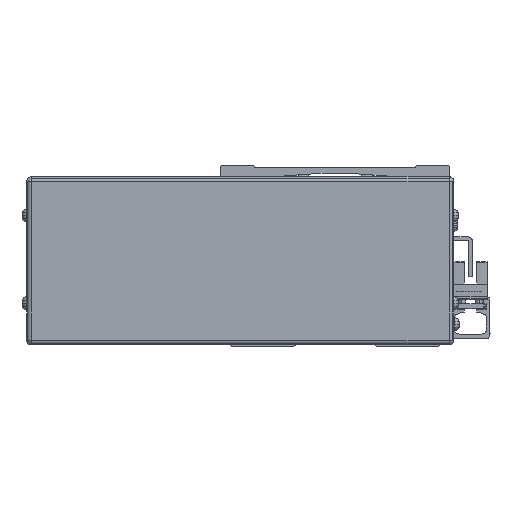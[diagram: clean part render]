
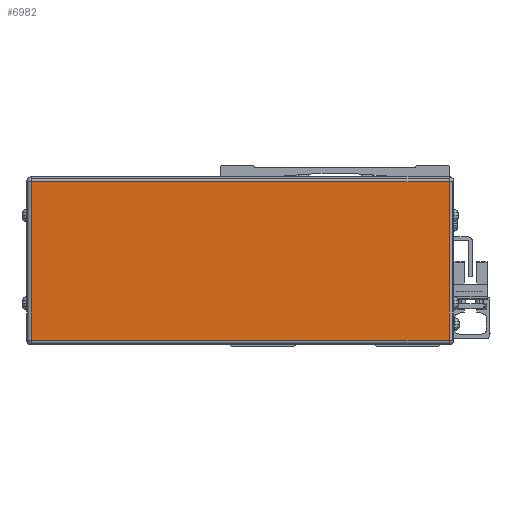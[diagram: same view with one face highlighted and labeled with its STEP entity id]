
A CAD part, front view. The second image highlights one B-rep face of the part: STEP entity #6982.
In plain terms, the highlighted planar face has unit normal (0, -1, 0).
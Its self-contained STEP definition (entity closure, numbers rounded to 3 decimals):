
#6982=ADVANCED_FACE('',(#14197),#14198,.F.);
#14197=FACE_OUTER_BOUND('',#22891,.T.);
#14198=PLANE('',#22892);
#22891=EDGE_LOOP('',(#43578,#43579,#43580,#43581));
#22892=AXIS2_PLACEMENT_3D('',#43582,#43583,#43584);
#43578=ORIENTED_EDGE('',*,*,#45675,.T.);
#43579=ORIENTED_EDGE('',*,*,#51622,.T.);
#43580=ORIENTED_EDGE('',*,*,#51263,.T.);
#43581=ORIENTED_EDGE('',*,*,#50177,.T.);
#43582=CARTESIAN_POINT('',(-39.,11.222,-42.5));
#43583=DIRECTION('',(0.0,1.0,-0.0));
#43584=DIRECTION('',(-1.0,0.0,0.0));
#45675=EDGE_CURVE('',#54348,#54346,#54349,.T.);
#50177=EDGE_CURVE('',#61744,#54348,#61745,.T.);
#51263=EDGE_CURVE('',#55791,#61744,#63263,.T.);
#51622=EDGE_CURVE('',#54346,#55791,#63733,.T.);
#54346=VERTEX_POINT('',#67062);
#54348=VERTEX_POINT('',#67064);
#54349=LINE('',#67065,#67066);
#55791=VERTEX_POINT('',#69193);
#61744=VERTEX_POINT('',#78070);
#61745=LINE('',#78071,#78072);
#63263=LINE('',#80352,#80353);
#63733=LINE('',#81054,#81055);
#67062=CARTESIAN_POINT('',(46.7,11.222,-40.5));
#67064=CARTESIAN_POINT('',(-124.7,11.222,-40.5));
#67065=CARTESIAN_POINT('',(-39.,11.222,-40.5));
#67066=VECTOR('',#84998,10.0);
#69193=CARTESIAN_POINT('',(46.7,11.222,24.5));
#78070=CARTESIAN_POINT('',(-124.7,11.222,24.5));
#78071=CARTESIAN_POINT('',(-124.7,11.222,-42.5));
#78072=VECTOR('',#90555,10.0);
#80352=CARTESIAN_POINT('',(-39.,11.222,24.5));
#80353=VECTOR('',#91826,10.0);
#81054=CARTESIAN_POINT('',(46.7,11.222,-42.5));
#81055=VECTOR('',#92146,10.0);
#84998=DIRECTION('',(1.0,0.0,0.0));
#90555=DIRECTION('',(-0.0,0.0,-1.0));
#91826=DIRECTION('',(-1.0,0.0,0.0));
#92146=DIRECTION('',(0.0,0.0,1.0));
